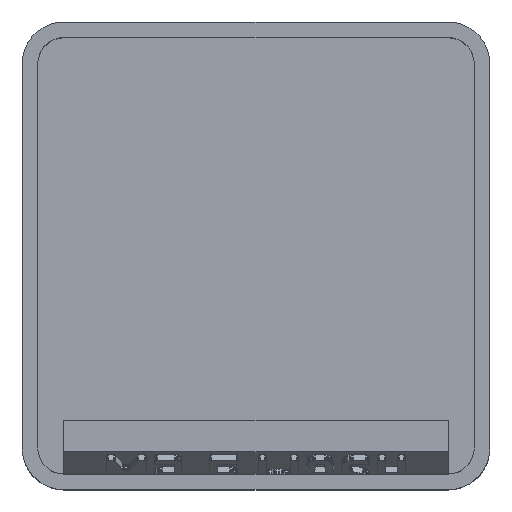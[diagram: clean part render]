
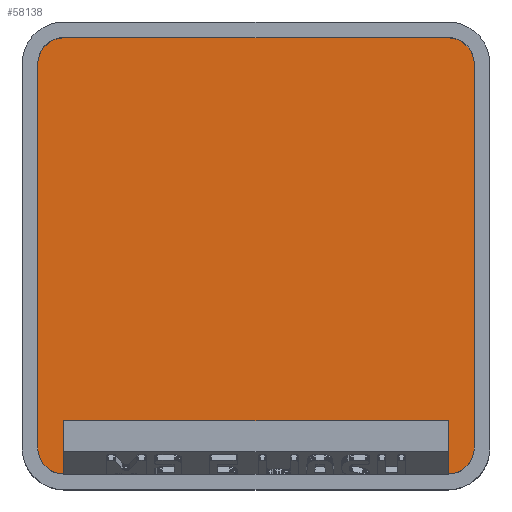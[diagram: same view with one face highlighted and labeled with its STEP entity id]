
A CAD part, top view. The second image highlights one B-rep face of the part: STEP entity #58138.
In plain terms, the highlighted planar face has unit normal (0, 0, 1).
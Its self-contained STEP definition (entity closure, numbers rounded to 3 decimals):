
#912 = PLANE('',#913);
#913 = AXIS2_PLACEMENT_3D('',#914,#915,#916);
#914 = CARTESIAN_POINT('',(-19.6,0.,21.));
#915 = DIRECTION('',(-1.,0.,0.));
#916 = DIRECTION('',(-0.,-1.,-0.));
#940 = CYLINDRICAL_SURFACE('',#941,2.35);
#941 = AXIS2_PLACEMENT_3D('',#942,#943,#944);
#942 = CARTESIAN_POINT('',(-17.25,17.25,5.95));
#943 = DIRECTION('',(-0.,-0.,1.));
#944 = DIRECTION('',(-1.,0.,0.));
#967 = PLANE('',#968);
#968 = AXIS2_PLACEMENT_3D('',#969,#970,#971);
#969 = CARTESIAN_POINT('',(0.,19.6,21.));
#970 = DIRECTION('',(0.,1.,0.));
#971 = DIRECTION('',(-1.,0.,0.));
#995 = CYLINDRICAL_SURFACE('',#996,2.35);
#996 = AXIS2_PLACEMENT_3D('',#997,#998,#999);
#997 = CARTESIAN_POINT('',(17.25,17.25,5.95));
#998 = DIRECTION('',(-0.,-0.,1.));
#999 = DIRECTION('',(-1.,0.,0.));
#1022 = PLANE('',#1023);
#1023 = AXIS2_PLACEMENT_3D('',#1024,#1025,#1026);
#1024 = CARTESIAN_POINT('',(19.6,0.,21.));
#1025 = DIRECTION('',(1.,0.,0.));
#1026 = DIRECTION('',(-0.,1.,0.));
#1050 = CYLINDRICAL_SURFACE('',#1051,2.35);
#1051 = AXIS2_PLACEMENT_3D('',#1052,#1053,#1054);
#1052 = CARTESIAN_POINT('',(17.25,-17.25,5.95));
#1053 = DIRECTION('',(-0.,-0.,1.));
#1054 = DIRECTION('',(-1.,0.,0.));
#1103 = CYLINDRICAL_SURFACE('',#1104,2.35);
#1104 = AXIS2_PLACEMENT_3D('',#1105,#1106,#1107);
#1105 = CARTESIAN_POINT('',(-17.25,-17.25,5.95));
#1106 = DIRECTION('',(-0.,-0.,1.));
#1107 = DIRECTION('',(-1.,0.,0.));
#21121 = EDGE_CURVE('',#21122,#21124,#21126,.T.);
#21122 = VERTEX_POINT('',#21123);
#21123 = CARTESIAN_POINT('',(-19.6,-17.25,5.95));
#21124 = VERTEX_POINT('',#21125);
#21125 = CARTESIAN_POINT('',(-19.6,17.25,5.95));
#21126 = SURFACE_CURVE('',#21127,(#21131,#21138),.PCURVE_S1.);
#21127 = LINE('',#21128,#21129);
#21128 = CARTESIAN_POINT('',(-19.6,0.,5.95));
#21129 = VECTOR('',#21130,1.);
#21130 = DIRECTION('',(0.,1.,0.));
#21131 = PCURVE('',#912,#21132);
#21132 = DEFINITIONAL_REPRESENTATION('',(#21133),#21137);
#21133 = LINE('',#21134,#21135);
#21134 = CARTESIAN_POINT('',(0.,-15.05));
#21135 = VECTOR('',#21136,1.);
#21136 = DIRECTION('',(-1.,0.));
#21137 = ( GEOMETRIC_REPRESENTATION_CONTEXT(2) 
PARAMETRIC_REPRESENTATION_CONTEXT() REPRESENTATION_CONTEXT('2D SPACE',''
  ) );
#21138 = PCURVE('',#21139,#21144);
#21139 = PLANE('',#21140);
#21140 = AXIS2_PLACEMENT_3D('',#21141,#21142,#21143);
#21141 = CARTESIAN_POINT('',(-17.25,-17.25,5.95));
#21142 = DIRECTION('',(0.,0.,-1.));
#21143 = DIRECTION('',(-1.,0.,0.));
#21144 = DEFINITIONAL_REPRESENTATION('',(#21145),#21149);
#21145 = LINE('',#21146,#21147);
#21146 = CARTESIAN_POINT('',(2.35,17.25));
#21147 = VECTOR('',#21148,1.);
#21148 = DIRECTION('',(0.,1.));
#21149 = ( GEOMETRIC_REPRESENTATION_CONTEXT(2) 
PARAMETRIC_REPRESENTATION_CONTEXT() REPRESENTATION_CONTEXT('2D SPACE',''
  ) );
#21196 = EDGE_CURVE('',#21197,#21122,#21199,.T.);
#21197 = VERTEX_POINT('',#21198);
#21198 = CARTESIAN_POINT('',(-17.25,-19.6,5.95));
#21199 = SURFACE_CURVE('',#21200,(#21205,#21212),.PCURVE_S1.);
#21200 = CIRCLE('',#21201,2.35);
#21201 = AXIS2_PLACEMENT_3D('',#21202,#21203,#21204);
#21202 = CARTESIAN_POINT('',(-17.25,-17.25,5.95));
#21203 = DIRECTION('',(0.,0.,-1.));
#21204 = DIRECTION('',(-1.,0.,0.));
#21205 = PCURVE('',#1103,#21206);
#21206 = DEFINITIONAL_REPRESENTATION('',(#21207),#21211);
#21207 = LINE('',#21208,#21209);
#21208 = CARTESIAN_POINT('',(6.283,0.));
#21209 = VECTOR('',#21210,1.);
#21210 = DIRECTION('',(-1.,0.));
#21211 = ( GEOMETRIC_REPRESENTATION_CONTEXT(2) 
PARAMETRIC_REPRESENTATION_CONTEXT() REPRESENTATION_CONTEXT('2D SPACE',''
  ) );
#21212 = PCURVE('',#21139,#21213);
#21213 = DEFINITIONAL_REPRESENTATION('',(#21214),#21218);
#21214 = CIRCLE('',#21215,2.35);
#21215 = AXIS2_PLACEMENT_2D('',#21216,#21217);
#21216 = CARTESIAN_POINT('',(0.,0.));
#21217 = DIRECTION('',(1.,0.));
#21218 = ( GEOMETRIC_REPRESENTATION_CONTEXT(2) 
PARAMETRIC_REPRESENTATION_CONTEXT() REPRESENTATION_CONTEXT('2D SPACE',''
  ) );
#21236 = PLANE('',#21237);
#21237 = AXIS2_PLACEMENT_3D('',#21238,#21239,#21240);
#21238 = CARTESIAN_POINT('',(0.,-19.6,21.));
#21239 = DIRECTION('',(0.,-1.,0.));
#21240 = DIRECTION('',(1.,0.,0.));
#21323 = EDGE_CURVE('',#21324,#21326,#21328,.T.);
#21324 = VERTEX_POINT('',#21325);
#21325 = CARTESIAN_POINT('',(19.6,-17.25,5.95));
#21326 = VERTEX_POINT('',#21327);
#21327 = CARTESIAN_POINT('',(17.25,-19.6,5.95));
#21328 = SURFACE_CURVE('',#21329,(#21334,#21341),.PCURVE_S1.);
#21329 = CIRCLE('',#21330,2.35);
#21330 = AXIS2_PLACEMENT_3D('',#21331,#21332,#21333);
#21331 = CARTESIAN_POINT('',(17.25,-17.25,5.95));
#21332 = DIRECTION('',(0.,0.,-1.));
#21333 = DIRECTION('',(-1.,0.,0.));
#21334 = PCURVE('',#1050,#21335);
#21335 = DEFINITIONAL_REPRESENTATION('',(#21336),#21340);
#21336 = LINE('',#21337,#21338);
#21337 = CARTESIAN_POINT('',(6.283,0.));
#21338 = VECTOR('',#21339,1.);
#21339 = DIRECTION('',(-1.,0.));
#21340 = ( GEOMETRIC_REPRESENTATION_CONTEXT(2) 
PARAMETRIC_REPRESENTATION_CONTEXT() REPRESENTATION_CONTEXT('2D SPACE',''
  ) );
#21341 = PCURVE('',#21139,#21342);
#21342 = DEFINITIONAL_REPRESENTATION('',(#21343),#21347);
#21343 = CIRCLE('',#21344,2.35);
#21344 = AXIS2_PLACEMENT_2D('',#21345,#21346);
#21345 = CARTESIAN_POINT('',(-34.5,0.));
#21346 = DIRECTION('',(1.,0.));
#21347 = ( GEOMETRIC_REPRESENTATION_CONTEXT(2) 
PARAMETRIC_REPRESENTATION_CONTEXT() REPRESENTATION_CONTEXT('2D SPACE',''
  ) );
#21421 = EDGE_CURVE('',#21324,#21422,#21424,.T.);
#21422 = VERTEX_POINT('',#21423);
#21423 = CARTESIAN_POINT('',(19.6,17.25,5.95));
#21424 = SURFACE_CURVE('',#21425,(#21429,#21436),.PCURVE_S1.);
#21425 = LINE('',#21426,#21427);
#21426 = CARTESIAN_POINT('',(19.6,0.,5.95));
#21427 = VECTOR('',#21428,1.);
#21428 = DIRECTION('',(0.,1.,0.));
#21429 = PCURVE('',#1022,#21430);
#21430 = DEFINITIONAL_REPRESENTATION('',(#21431),#21435);
#21431 = LINE('',#21432,#21433);
#21432 = CARTESIAN_POINT('',(0.,-15.05));
#21433 = VECTOR('',#21434,1.);
#21434 = DIRECTION('',(1.,0.));
#21435 = ( GEOMETRIC_REPRESENTATION_CONTEXT(2) 
PARAMETRIC_REPRESENTATION_CONTEXT() REPRESENTATION_CONTEXT('2D SPACE',''
  ) );
#21436 = PCURVE('',#21139,#21437);
#21437 = DEFINITIONAL_REPRESENTATION('',(#21438),#21442);
#21438 = LINE('',#21439,#21440);
#21439 = CARTESIAN_POINT('',(-36.85,17.25));
#21440 = VECTOR('',#21441,1.);
#21441 = DIRECTION('',(0.,1.));
#21442 = ( GEOMETRIC_REPRESENTATION_CONTEXT(2) 
PARAMETRIC_REPRESENTATION_CONTEXT() REPRESENTATION_CONTEXT('2D SPACE',''
  ) );
#21469 = EDGE_CURVE('',#21470,#21422,#21472,.T.);
#21470 = VERTEX_POINT('',#21471);
#21471 = CARTESIAN_POINT('',(17.25,19.6,5.95));
#21472 = SURFACE_CURVE('',#21473,(#21478,#21485),.PCURVE_S1.);
#21473 = CIRCLE('',#21474,2.35);
#21474 = AXIS2_PLACEMENT_3D('',#21475,#21476,#21477);
#21475 = CARTESIAN_POINT('',(17.25,17.25,5.95));
#21476 = DIRECTION('',(0.,0.,-1.));
#21477 = DIRECTION('',(-1.,0.,0.));
#21478 = PCURVE('',#995,#21479);
#21479 = DEFINITIONAL_REPRESENTATION('',(#21480),#21484);
#21480 = LINE('',#21481,#21482);
#21481 = CARTESIAN_POINT('',(6.283,0.));
#21482 = VECTOR('',#21483,1.);
#21483 = DIRECTION('',(-1.,0.));
#21484 = ( GEOMETRIC_REPRESENTATION_CONTEXT(2) 
PARAMETRIC_REPRESENTATION_CONTEXT() REPRESENTATION_CONTEXT('2D SPACE',''
  ) );
#21485 = PCURVE('',#21139,#21486);
#21486 = DEFINITIONAL_REPRESENTATION('',(#21487),#21491);
#21487 = CIRCLE('',#21488,2.35);
#21488 = AXIS2_PLACEMENT_2D('',#21489,#21490);
#21489 = CARTESIAN_POINT('',(-34.5,34.5));
#21490 = DIRECTION('',(1.,0.));
#21491 = ( GEOMETRIC_REPRESENTATION_CONTEXT(2) 
PARAMETRIC_REPRESENTATION_CONTEXT() REPRESENTATION_CONTEXT('2D SPACE',''
  ) );
#21519 = EDGE_CURVE('',#21520,#21470,#21522,.T.);
#21520 = VERTEX_POINT('',#21521);
#21521 = CARTESIAN_POINT('',(-17.25,19.6,5.95));
#21522 = SURFACE_CURVE('',#21523,(#21527,#21534),.PCURVE_S1.);
#21523 = LINE('',#21524,#21525);
#21524 = CARTESIAN_POINT('',(0.,19.6,5.95));
#21525 = VECTOR('',#21526,1.);
#21526 = DIRECTION('',(1.,0.,0.));
#21527 = PCURVE('',#967,#21528);
#21528 = DEFINITIONAL_REPRESENTATION('',(#21529),#21533);
#21529 = LINE('',#21530,#21531);
#21530 = CARTESIAN_POINT('',(0.,-15.05));
#21531 = VECTOR('',#21532,1.);
#21532 = DIRECTION('',(-1.,0.));
#21533 = ( GEOMETRIC_REPRESENTATION_CONTEXT(2) 
PARAMETRIC_REPRESENTATION_CONTEXT() REPRESENTATION_CONTEXT('2D SPACE',''
  ) );
#21534 = PCURVE('',#21139,#21535);
#21535 = DEFINITIONAL_REPRESENTATION('',(#21536),#21540);
#21536 = LINE('',#21537,#21538);
#21537 = CARTESIAN_POINT('',(-17.25,36.85));
#21538 = VECTOR('',#21539,1.);
#21539 = DIRECTION('',(-1.,0.));
#21540 = ( GEOMETRIC_REPRESENTATION_CONTEXT(2) 
PARAMETRIC_REPRESENTATION_CONTEXT() REPRESENTATION_CONTEXT('2D SPACE',''
  ) );
#21568 = EDGE_CURVE('',#21124,#21520,#21569,.T.);
#21569 = SURFACE_CURVE('',#21570,(#21575,#21582),.PCURVE_S1.);
#21570 = CIRCLE('',#21571,2.35);
#21571 = AXIS2_PLACEMENT_3D('',#21572,#21573,#21574);
#21572 = CARTESIAN_POINT('',(-17.25,17.25,5.95));
#21573 = DIRECTION('',(0.,0.,-1.));
#21574 = DIRECTION('',(-1.,0.,0.));
#21575 = PCURVE('',#940,#21576);
#21576 = DEFINITIONAL_REPRESENTATION('',(#21577),#21581);
#21577 = LINE('',#21578,#21579);
#21578 = CARTESIAN_POINT('',(6.283,0.));
#21579 = VECTOR('',#21580,1.);
#21580 = DIRECTION('',(-1.,0.));
#21581 = ( GEOMETRIC_REPRESENTATION_CONTEXT(2) 
PARAMETRIC_REPRESENTATION_CONTEXT() REPRESENTATION_CONTEXT('2D SPACE',''
  ) );
#21582 = PCURVE('',#21139,#21583);
#21583 = DEFINITIONAL_REPRESENTATION('',(#21584),#21588);
#21584 = CIRCLE('',#21585,2.35);
#21585 = AXIS2_PLACEMENT_2D('',#21586,#21587);
#21586 = CARTESIAN_POINT('',(0.,34.5));
#21587 = DIRECTION('',(1.,0.));
#21588 = ( GEOMETRIC_REPRESENTATION_CONTEXT(2) 
PARAMETRIC_REPRESENTATION_CONTEXT() REPRESENTATION_CONTEXT('2D SPACE',''
  ) );
#58138 = ADVANCED_FACE('',(#58139),#21139,.F.);
#58139 = FACE_BOUND('',#58140,.T.);
#58140 = EDGE_LOOP('',(#58141,#58142,#58143,#58164,#58165,#58166,#58167,
    #58168));
#58141 = ORIENTED_EDGE('',*,*,#21121,.F.);
#58142 = ORIENTED_EDGE('',*,*,#21196,.F.);
#58143 = ORIENTED_EDGE('',*,*,#58144,.T.);
#58144 = EDGE_CURVE('',#21197,#21326,#58145,.T.);
#58145 = SURFACE_CURVE('',#58146,(#58150,#58157),.PCURVE_S1.);
#58146 = LINE('',#58147,#58148);
#58147 = CARTESIAN_POINT('',(0.,-19.6,5.95));
#58148 = VECTOR('',#58149,1.);
#58149 = DIRECTION('',(1.,0.,0.));
#58150 = PCURVE('',#21139,#58151);
#58151 = DEFINITIONAL_REPRESENTATION('',(#58152),#58156);
#58152 = LINE('',#58153,#58154);
#58153 = CARTESIAN_POINT('',(-17.25,-2.35));
#58154 = VECTOR('',#58155,1.);
#58155 = DIRECTION('',(-1.,0.));
#58156 = ( GEOMETRIC_REPRESENTATION_CONTEXT(2) 
PARAMETRIC_REPRESENTATION_CONTEXT() REPRESENTATION_CONTEXT('2D SPACE',''
  ) );
#58157 = PCURVE('',#21236,#58158);
#58158 = DEFINITIONAL_REPRESENTATION('',(#58159),#58163);
#58159 = LINE('',#58160,#58161);
#58160 = CARTESIAN_POINT('',(0.,-15.05));
#58161 = VECTOR('',#58162,1.);
#58162 = DIRECTION('',(1.,0.));
#58163 = ( GEOMETRIC_REPRESENTATION_CONTEXT(2) 
PARAMETRIC_REPRESENTATION_CONTEXT() REPRESENTATION_CONTEXT('2D SPACE',''
  ) );
#58164 = ORIENTED_EDGE('',*,*,#21323,.F.);
#58165 = ORIENTED_EDGE('',*,*,#21421,.T.);
#58166 = ORIENTED_EDGE('',*,*,#21469,.F.);
#58167 = ORIENTED_EDGE('',*,*,#21519,.F.);
#58168 = ORIENTED_EDGE('',*,*,#21568,.F.);
